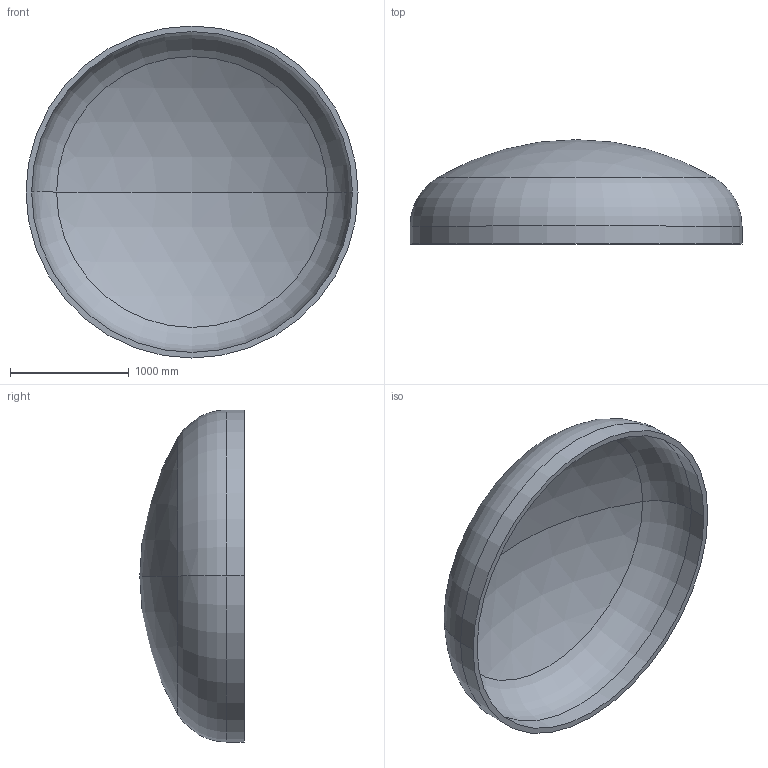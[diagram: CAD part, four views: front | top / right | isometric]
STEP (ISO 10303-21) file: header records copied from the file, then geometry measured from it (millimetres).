
FILE_DESCRIPTION (( 'STEP AP203' ), '1' );
FILE_NAME ('DIN 28013 Korbbogenform_-_Boden DIN 28013 - 2800 x 150 - I - s=47.step', '2016-07-01T17:01:58', ( '' ), ( '' ), 'SwSTEP 2.0', 'SolidWorks 2013', '' );
FILE_SCHEMA (( 'CONFIG_CONTROL_DESIGN' ));
Length unit declared in the file: millimetre
Products named in the file (1): DIN 28013 Korbbogenform_-_Boden DIN 28013 - 2800 x 150 - I - s=47
Bounding box: 2800 x 880.02 x 2800 mm (x, y, z)
Volume: 452799383 mm3; surface area: 19679172.8 mm2
Topology: 1 solids, 1 shells, 13 faces, 24 edges, 14 vertices
Faces by surface type: torus 4, cylinder 4, sphere 4, plane 1
Entity records: 407 total; most frequent: DIRECTION 72, CARTESIAN_POINT 52, ORIENTED_EDGE 48, AXIS2_PLACEMENT_3D 34, EDGE_CURVE 24, CIRCLE 20, VERTEX_POINT 14, EDGE_LOOP 14
